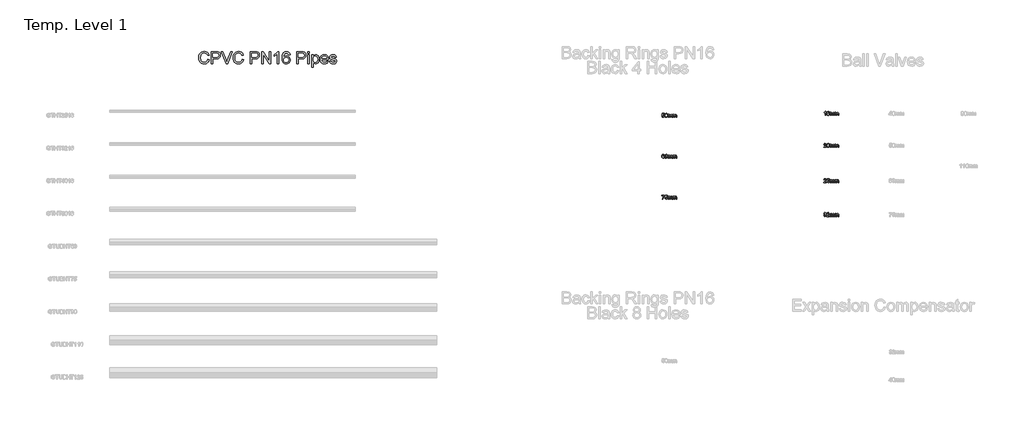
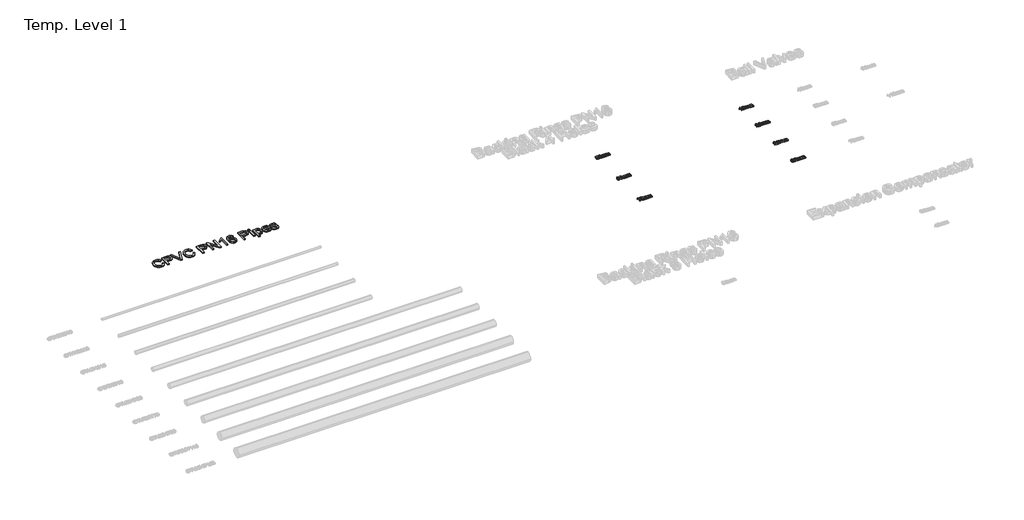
# One storey, part 54 of 62: 8 proxies.
"""IFC4 building model written with IfcOpenShell, lengths in millimetres."""

from ifc_helpers import new_model, si_unit, origin, origin_with_axes, place, context, project, spatial, polyline, outline, extrude, element, save

model = new_model("IFC4")

# Units and contexts
model_context = context("Model", 3, world=origin())
ifc_project = project(units=[si_unit("LENGTHUNIT", "METRE", prefix="MILLI")], contexts=[model_context])

# Site, building, storey
site = spatial("IfcSite", under=ifc_project)
building = spatial("IfcBuilding", under=site)
storey = spatial("IfcBuildingStorey", under=building, Name="Temp. Level 1", Elevation=0.0)

# Proxies
placement = place(None, origin())
element("IfcBuildingElementProxy", 1, Name="150mm Arial", ObjectType="150mm Arial", at=placement, inside=storey, context=model_context, shape_type="SweptSolid", body=[
    extrude(outline(polyline([(4161.5022519, 2011.5066411), (4179.9637904, 2006.7470257), (4171.4451606, 1985.234105), (4158.0767712, 1969.5174584), (4140.516675, 1959.9035762), (4119.422925, 1956.6989488), (4098.009163, 1959.1238286), (4081.0034538, 1966.398468), (4067.9685981, 1978.2704632), (4058.4673962, 1994.4874103), (4052.6666149, 2013.5529151), (4050.7330212, 2033.9705834), (4052.9190188, 2055.5060401), (4059.4770115, 2074.1027949), (4070.0644514, 2089.1704031), (4084.3387904, 2100.1184199), (4101.2678769, 2106.7845858), (4119.8195596, 2109.0066411), (4140.0614466, 2106.1310401), (4156.7967231, 2097.5042372), (4169.5025524, 2083.6580834), (4177.6560981, 2065.1244296), (4159.1945596, 2060.7253911), (4152.7943192, 2074.188432), (4144.0503288, 2083.4237084), (4132.8544154, 2088.7647541), (4119.0984058, 2090.5451026), (4103.2420356, 2088.570944), (4090.2161942, 2082.648468), (4080.3318793, 2073.3996699), (4073.9000885, 2061.4465449), (4069.1945596, 2034.0066411), (4074.7654731, 2002.2037565), (4081.8868673, 1990.3272541), (4092.1092231, 1981.8852469), (4104.3643313, 1976.8416771), (4117.5839827, 1975.1604872), (4132.9941389, 1977.4501507), (4145.8351846, 1984.3191411), (4155.5301966, 1995.695343), (4161.5022519, 2011.5066411)])), origin_with_axes(), (0.0, 0.0, 1.0), 15.0),
    extrude(outline(polyline([(4205.3484058, 1959.0066411), (4205.3484058, 2106.6989488), (4260.0839827, 2106.6989488), (4282.1512904, 2105.2926988), (4300.0899923, 2098.3876507), (4311.7185981, 2084.1088046), (4316.1176365, 2063.9705834), (4313.1473841, 2046.5637324), (4304.2366269, 2032.0595257), (4287.5734659, 2022.2698622), (4261.3460019, 2019.0066411), (4223.8099442, 2019.0066411), (4223.8099442, 1959.0066411), (4205.3484058, 1959.0066411)]), holes=[polyline([(4223.8099442, 2037.4681796), (4262.4277327, 2037.4681796), (4278.797925, 2039.1628911), (4289.6152327, 2044.2470257), (4295.6458817, 2052.4050786), (4297.6560981, 2063.3215449), (4292.9145115, 2078.6100065), (4280.4565788, 2086.9753911), (4261.9950404, 2088.2374103), (4223.8099442, 2088.2374103), (4223.8099442, 2037.4681796)])]), origin_with_axes(), (0.0, 0.0, 1.0), 15.0),
    extrude(outline(polyline([(4385.1320596, 1959.0066411), (4326.3580212, 2106.6989488), (4346.1176365, 2106.6989488), (4385.4565788, 2000.2926988), (4393.4253288, 1976.3143334), (4401.2859058, 2000.2926988), (4440.7330212, 2106.6989488), (4460.4926365, 2106.6989488), (4404.2065788, 1959.0066411), (4385.1320596, 1959.0066411)])), origin_with_axes(), (0.0, 0.0, 1.0), 15.0),
    extrude(outline(polyline([(4581.5022519, 2011.5066411), (4599.9637904, 2006.7470257), (4591.4451606, 1985.234105), (4578.0767712, 1969.5174584), (4560.516675, 1959.9035762), (4539.422925, 1956.6989488), (4518.009163, 1959.1238286), (4501.0034538, 1966.398468), (4487.9685981, 1978.2704632), (4478.4673962, 1994.4874103), (4472.6666149, 2013.5529151), (4470.7330212, 2033.9705834), (4472.9190188, 2055.5060401), (4479.4770115, 2074.1027949), (4490.0644514, 2089.1704031), (4504.3387904, 2100.1184199), (4521.2678769, 2106.7845858), (4539.8195596, 2109.0066411), (4560.0614466, 2106.1310401), (4576.7967231, 2097.5042372), (4589.5025524, 2083.6580834), (4597.6560981, 2065.1244296), (4579.1945596, 2060.7253911), (4572.7943192, 2074.188432), (4564.0503288, 2083.4237084), (4552.8544154, 2088.7647541), (4539.0984058, 2090.5451026), (4523.2420356, 2088.570944), (4510.2161942, 2082.648468), (4500.3318793, 2073.3996699), (4493.9000885, 2061.4465449), (4489.1945596, 2034.0066411), (4494.7654731, 2002.2037565), (4501.8868673, 1990.3272541), (4512.1092231, 1981.8852469), (4524.3643313, 1976.8416771), (4537.5839827, 1975.1604872), (4552.9941389, 1977.4501507), (4565.8351846, 1984.3191411), (4575.5301966, 1995.695343), (4581.5022519, 2011.5066411)])), origin_with_axes(), (0.0, 0.0, 1.0), 15.0),
    extrude(outline(polyline([(4683.0407135, 1959.0066411), (4683.0407135, 2106.6989488), (4737.7762904, 2106.6989488), (4759.8435981, 2105.2926988), (4777.7823, 2098.3876507), (4789.4109058, 2084.1088046), (4793.8099442, 2063.9705834), (4790.8396918, 2046.5637324), (4781.9289346, 2032.0595257), (4765.2657736, 2022.2698622), (4739.0383096, 2019.0066411), (4701.5022519, 2019.0066411), (4701.5022519, 1959.0066411), (4683.0407135, 1959.0066411)]), holes=[polyline([(4701.5022519, 2037.4681796), (4740.1200404, 2037.4681796), (4756.4902327, 2039.1628911), (4767.3075404, 2044.2470257), (4773.3381894, 2052.4050786), (4775.3484058, 2063.3215449), (4770.6068192, 2078.6100065), (4758.1488865, 2086.9753911), (4739.6873481, 2088.2374103), (4701.5022519, 2088.2374103), (4701.5022519, 2037.4681796)])]), origin_with_axes(), (0.0, 0.0, 1.0), 15.0),
    extrude(outline(polyline([(4819.1945596, 1959.0066411), (4819.1945596, 2106.6989488), (4838.954175, 2106.6989488), (4916.1176365, 1989.6917372), (4916.1176365, 2106.6989488), (4934.579175, 2106.6989488), (4934.579175, 1959.0066411), (4914.8195596, 1959.0066411), (4837.6560981, 2076.0499103), (4837.6560981, 1959.0066411), (4819.1945596, 1959.0066411)])), origin_with_axes(), (0.0, 0.0, 1.0), 15.0),
    extrude(outline(polyline([(5029.1945596, 1959.0066411), (5010.7330212, 1959.0066411), (5010.7330212, 2074.1027949), (4993.2450404, 2061.6448622), (4973.8099442, 2052.3239488), (4973.8099442, 2069.7758719), (5000.8712423, 2087.0475065), (5017.2955212, 2106.6989488), (5029.1945596, 2106.6989488), (5029.1945596, 1959.0066411)])), origin_with_axes(), (0.0, 0.0, 1.0), 15.0),
    extrude(outline(polyline([(5167.6560981, 2067.4681796), (5149.1945596, 2065.1604872), (5142.1993673, 2080.5571219), (5133.8249683, 2086.3173382), (5123.7017712, 2088.2374103), (5107.0431173, 2083.7662565), (5094.4409538, 2066.9814007), (5090.6143313, 2053.2298983), (5089.1945596, 2034.0787565), (5105.4746077, 2048.8083238), (5125.6488865, 2053.6220257), (5142.704175, 2050.3317613), (5157.0190788, 2040.460968), (5166.7276125, 2025.3798382), (5169.9637904, 2006.4585642), (5168.4403529, 1993.2389127), (5163.8700404, 1980.9838046), (5156.6314587, 1970.5901747), (5147.1032135, 1962.9549584), (5135.7179971, 1958.2629512), (5122.9085019, 1956.6989488), (5101.9634899, 1960.8455834), (5085.2823, 1973.2854872), (5074.3703409, 1995.2446219), (5070.7330212, 2027.9489488), (5074.7714827, 2064.7187805), (5086.8868673, 2089.8600065), (5103.4283337, 2102.4892132), (5124.8556173, 2106.6989488), (5141.0545356, 2104.0937805), (5154.0262904, 2096.2782757), (5163.1128288, 2083.8654151), (5167.6560981, 2067.4681796)]), holes=[polyline([(5089.1945596, 2006.7470257), (5093.4673962, 1990.7554392), (5104.8255692, 1979.1448622), (5121.4661942, 1975.1604872), (5133.649187, 1977.2247901), (5143.2270115, 1983.4176988), (5149.4334418, 1993.1532757), (5151.5022519, 2005.8455834), (5149.4604851, 2018.0285762), (5143.3351846, 2027.3179392), (5133.5951005, 2033.1998502), (5120.7089827, 2035.1604872), (5108.5440188, 2033.1998502), (5098.3712423, 2027.3179392), (5091.4887303, 2018.2539368), (5089.1945596, 2006.7470257)])]), origin_with_axes(), (0.0, 0.0, 1.0), 15.0),
    extrude(outline(polyline([(5250.7330212, 1959.0066411), (5250.7330212, 2106.6989488), (5305.4685981, 2106.6989488), (5327.5359058, 2105.2926988), (5345.4746077, 2098.3876507), (5357.1032135, 2084.1088046), (5361.5022519, 2063.9705834), (5358.5319995, 2046.5637324), (5349.6212423, 2032.0595257), (5332.9580813, 2022.2698622), (5306.7306173, 2019.0066411), (5269.1945596, 2019.0066411), (5269.1945596, 1959.0066411), (5250.7330212, 1959.0066411)]), holes=[polyline([(5269.1945596, 2037.4681796), (5307.8123481, 2037.4681796), (5324.1825404, 2039.1628911), (5334.9998481, 2044.2470257), (5341.0304971, 2052.4050786), (5343.0407135, 2063.3215449), (5338.2991269, 2078.6100065), (5325.8411942, 2086.9753911), (5307.3796558, 2088.2374103), (5269.1945596, 2088.2374103), (5269.1945596, 2037.4681796)])]), origin_with_axes(), (0.0, 0.0, 1.0), 15.0),
    extrude(outline(polyline([(5384.579175, 1959.0066411), (5384.579175, 2067.4681796), (5403.0407135, 2067.4681796), (5403.0407135, 1959.0066411), (5384.579175, 1959.0066411)])), origin_with_axes(), (0.0, 0.0, 1.0), 15.0),
    extrude(outline(polyline([(5384.579175, 2088.2374103), (5384.579175, 2106.6989488), (5403.0407135, 2106.6989488), (5403.0407135, 2088.2374103), (5384.579175, 2088.2374103)])), origin_with_axes(), (0.0, 0.0, 1.0), 15.0),
    extrude(outline(polyline([(5430.7330212, 1917.4681796), (5430.7330212, 2067.4681796), (5449.1945596, 2067.4681796), (5449.1945596, 2049.367218), (5461.9589827, 2064.6737084), (5479.1945596, 2069.7758719), (5491.6795356, 2067.9910161), (5502.5960019, 2062.6364488), (5511.4842231, 2054.0366892), (5517.8844635, 2042.5162565), (5523.0407135, 2014.0667372), (5521.5848841, 1998.2779752), (5517.2173962, 1984.1568815), (5510.0779731, 1972.4201026), (5500.3063385, 1963.7842853), (5488.9256293, 1958.4702829), (5476.9589827, 1956.6989488), (5460.8952808, 1961.4405353), (5449.1945596, 1973.429718), (5449.1945596, 1917.4681796), (5430.7330212, 1917.4681796)]), holes=[polyline([(5449.1945596, 2012.3720257), (5451.1912543, 1995.8215449), (5457.1813385, 1984.2470257), (5466.0199803, 1977.4321219), (5476.5623481, 1975.1604872), (5487.2759899, 1977.5132517), (5496.3399923, 1984.5715449), (5502.5193793, 1996.5697421), (5504.579175, 2013.742218), (5502.5689587, 2030.2025546), (5496.5383096, 2041.9393334), (5487.7131894, 2048.9705834), (5477.3195596, 2051.3143334), (5466.8853649, 2048.8218454), (5457.7222038, 2041.3443815), (5451.3264707, 2029.1163166), (5449.1945596, 2012.3720257)])]), origin_with_axes(), (0.0, 0.0, 1.0), 15.0),
    extrude(outline(polyline([(5619.7474442, 1991.3143334), (5637.8484058, 1989.0066411), (5631.3264707, 1975.367819), (5620.9193192, 1965.1725065), (5606.8613264, 1958.8173382), (5589.3868673, 1956.6989488), (5567.7252087, 1960.3542973), (5551.0575404, 1971.320343), (5540.4295356, 1988.8849464), (5536.8868673, 2012.335968), (5540.4655933, 2036.5757517), (5551.2017712, 2054.7037565), (5567.6440788, 2066.007843), (5588.3411942, 2069.7758719), (5608.3937784, 2066.0168574), (5624.4169154, 2054.7398142), (5634.9232255, 2036.6478671), (5638.4253288, 2012.4441411), (5638.3171558, 2007.4681796), (5555.3484058, 2007.4681796), (5558.5440188, 1993.649069), (5565.9673962, 1983.4898142), (5576.681038, 1977.242819), (5589.7474442, 1975.1604872), (5607.8484058, 1979.0186603), (5619.7474442, 1991.3143334)]), holes=[polyline([(5555.3484058, 2025.929718), (5619.9637904, 2025.929718), (5617.4667952, 2035.6833238), (5612.5719635, 2042.6604872), (5601.8087423, 2049.1508719), (5588.2690788, 2051.3143334), (5575.8246678, 2049.5880714), (5565.5347038, 2044.4092853), (5558.3817591, 2036.3368695), (5555.3484058, 2025.929718)])]), origin_with_axes(), (0.0, 0.0, 1.0), 15.0),
    extrude(outline(polyline([(5649.9637904, 1991.3143334), (5668.4253288, 1993.6220257), (5671.3369875, 1985.7253911), (5676.9710019, 1979.9201026), (5696.5503288, 1975.1604872), (5715.3724442, 1979.523468), (5721.5022519, 1989.7638526), (5715.3363865, 1998.0571219), (5696.3339827, 2003.3215449), (5668.5335019, 2012.3539969), (5656.4000885, 2022.9008719), (5652.2714827, 2037.7926988), (5655.5887904, 2051.5487084), (5664.6392712, 2062.0595257), (5676.37605, 2067.5222661), (5692.2594635, 2069.7758719), (5714.7234058, 2066.1520738), (5729.0022519, 2056.3443815), (5735.3484058, 2039.7758719), (5716.8868673, 2037.4681796), (5709.9457615, 2047.6544776), (5693.7017712, 2051.3143334), (5676.0335019, 2047.8167372), (5670.7330212, 2039.6676988), (5672.9325404, 2034.2951026), (5679.8195596, 2030.2205834), (5695.7210019, 2026.2902949), (5722.8183577, 2017.6003911), (5735.4024923, 2007.7566411), (5739.9637904, 1991.710968), (5734.6092231, 1974.0426988), (5719.1585019, 1961.2241892), (5696.297925, 1956.6989488), (5677.6831413, 1958.8804392), (5664.0984058, 1965.4249103), (5655.0298962, 1976.2602469), (5649.9637904, 1991.3143334)])), origin_with_axes(), (0.0, 0.0, 1.0), 15.0),
])
element("IfcBuildingElementProxy", 2, Name="50mm Arial", ObjectType="50mm Arial", at=placement, inside=storey, context=model_context, shape_type="SweptSolid", body=[
    extrude(outline(polyline([(9715.3245939, 1315.3476651), (9721.4784401, 1316.1168958), (9724.5794016, 1309.7767516), (9731.0096901, 1307.6553574), (9738.7260362, 1310.6060785), (9741.4784401, 1318.4366074), (9738.9003151, 1325.7442997), (9731.1058439, 1328.4245882), (9725.7031997, 1327.3548766), (9722.2476708, 1324.5784343), (9716.0938247, 1325.3476651), (9721.4784401, 1350.7322805), (9745.3245939, 1350.7322805), (9745.3245939, 1344.5784343), (9726.4544016, 1344.5784343), (9723.8221901, 1331.020742), (9732.8245939, 1334.5784343), (9743.3474304, 1330.1673766), (9747.6322862, 1318.8212228), (9743.7741131, 1307.4029535), (9738.2332477, 1302.9768718), (9730.9856516, 1301.5015112), (9720.1262766, 1305.2935785), (9715.3245939, 1315.3476651)])), origin_with_axes(), (0.0, 0.0, 1.0), 15.0),
    extrude(outline(polyline([(9753.0169016, 1326.489492), (9754.8257958, 1340.6541555), (9760.198392, 1348.8212228), (9769.1707477, 1351.5015112), (9776.3582477, 1349.9149728), (9781.3221901, 1345.3416555), (9784.2068054, 1338.0580016), (9785.3245939, 1326.489492), (9783.5337285, 1312.3849247), (9778.1791612, 1304.1998285), (9769.1707477, 1301.5015112), (9757.9207477, 1306.1890112), (9754.2428631, 1314.5153333), (9753.0169016, 1326.489492)]), holes=[polyline([(9759.1707477, 1326.5015112), (9762.0553631, 1311.2190593), (9769.1707477, 1307.6553574), (9776.2861324, 1311.2310785), (9779.1707477, 1326.5015112), (9776.3822862, 1341.6096843), (9769.0986324, 1345.3476651), (9762.151517, 1342.0543958), (9759.1707477, 1326.5015112)])]), origin_with_axes(), (0.0, 0.0, 1.0), 15.0),
    extrude(outline(polyline([(9792.2476708, 1302.270742), (9792.2476708, 1338.4245882), (9798.401517, 1338.4245882), (9798.401517, 1332.4750689), (9802.6322862, 1337.348867), (9808.6539208, 1339.1938189), (9814.8197862, 1337.3128093), (9818.2092093, 1332.0423766), (9823.010892, 1337.4059583), (9829.0745939, 1339.1938189), (9837.1214689, 1336.2190593), (9839.9399785, 1327.0543958), (9839.9399785, 1302.270742), (9833.7861324, 1302.270742), (9833.7861324, 1324.4101651), (9833.2152189, 1329.5483862), (9831.1479112, 1332.0784343), (9827.6322862, 1333.0399728), (9821.5806035, 1330.5760305), (9819.1707477, 1322.6793958), (9819.1707477, 1302.270742), (9813.0169016, 1302.270742), (9813.0169016, 1325.0952612), (9811.5926227, 1331.0567997), (9806.9231516, 1333.0399728), (9802.3678631, 1331.7178574), (9799.339017, 1327.8476651), (9798.401517, 1320.5039151), (9798.401517, 1302.270742), (9792.2476708, 1302.270742)])), origin_with_axes(), (0.0, 0.0, 1.0), 15.0),
    extrude(outline(polyline([(9849.1707477, 1302.270742), (9849.1707477, 1338.4245882), (9855.3245939, 1338.4245882), (9855.3245939, 1332.4750689), (9859.5553631, 1337.348867), (9865.5769977, 1339.1938189), (9871.7428631, 1337.3128093), (9875.1322862, 1332.0423766), (9879.9339689, 1337.4059583), (9885.9976708, 1339.1938189), (9894.0445458, 1336.2190593), (9896.8630554, 1327.0543958), (9896.8630554, 1302.270742), (9890.7092093, 1302.270742), (9890.7092093, 1324.4101651), (9890.1382958, 1329.5483862), (9888.0709881, 1332.0784343), (9884.5553631, 1333.0399728), (9878.5036804, 1330.5760305), (9876.0938247, 1322.6793958), (9876.0938247, 1302.270742), (9869.9399785, 1302.270742), (9869.9399785, 1325.0952612), (9868.5156997, 1331.0567997), (9863.8462285, 1333.0399728), (9859.2909401, 1331.7178574), (9856.2620939, 1327.8476651), (9855.3245939, 1320.5039151), (9855.3245939, 1302.270742), (9849.1707477, 1302.270742)])), origin_with_axes(), (0.0, 0.0, 1.0), 15.0),
])
element("IfcBuildingElementProxy", 3, Name="50mm Arial", ObjectType="50mm Arial", at=placement, inside=storey, context=model_context, shape_type="SweptSolid", body=[
    extrude(outline(polyline([(9746.8630554, 838.4245882), (9740.7092093, 837.6553574), (9738.3774785, 842.7875689), (9732.2116131, 845.3476651), (9726.6587285, 843.8572805), (9722.4580074, 838.2623285), (9720.7092093, 827.2947805), (9726.135892, 832.2046362), (9732.8606516, 833.8092035), (9743.3173824, 829.4221843), (9747.6322862, 818.0880497), (9745.6010362, 809.5964632), (9740.0120939, 803.5868478), (9731.9471901, 801.5015112), (9719.4051227, 807.0303574), (9715.767803, 814.3500689), (9714.5553631, 825.2515112), (9715.901517, 837.5081218), (9719.9399785, 845.8885305), (9725.4538006, 850.098266), (9732.5962285, 851.5015112), (9742.3197862, 848.0279535), (9746.8630554, 838.4245882)]), holes=[polyline([(9720.7092093, 818.1842035), (9722.1334881, 812.8536747), (9725.9195458, 808.9834824), (9731.4664208, 807.6553574), (9738.7200266, 810.4077612), (9741.4784401, 817.8837228), (9738.7560843, 825.0411747), (9731.214017, 827.6553574), (9723.7681035, 825.0411747), (9720.7092093, 818.1842035)])]), origin_with_axes(), (0.0, 0.0, 1.0), 15.0),
    extrude(outline(polyline([(9753.0169016, 815.3476651), (9759.1707477, 816.1168958), (9762.5661804, 809.6385305), (9768.9183439, 807.6553574), (9776.3943054, 810.3837228), (9779.1707477, 817.1385305), (9776.4183439, 823.5027132), (9769.4231516, 826.020742), (9765.1082477, 825.3476651), (9765.7933439, 831.5015112), (9773.7620939, 833.1962228), (9776.8630554, 838.6289151), (9774.6154593, 843.442617), (9768.8221901, 845.3476651), (9762.9568054, 843.4245882), (9759.9399785, 837.6553574), (9753.7861324, 838.4245882), (9758.8221901, 848.0760305), (9768.6058439, 851.5015112), (9776.0277189, 849.8128093), (9781.2200266, 845.1974247), (9783.0169016, 838.989492), (9781.3101708, 833.3164151), (9776.2620939, 829.2418958), (9782.9688247, 825.0351651), (9785.3245939, 817.0303574), (9780.6130554, 806.020742), (9768.7019977, 801.5015112), (9757.9087285, 805.3596843), (9753.0169016, 815.3476651)])), origin_with_axes(), (0.0, 0.0, 1.0), 15.0),
    extrude(outline(polyline([(9792.2476708, 802.270742), (9792.2476708, 838.4245882), (9798.401517, 838.4245882), (9798.401517, 832.4750689), (9802.6322862, 837.348867), (9808.6539208, 839.1938189), (9814.8197862, 837.3128093), (9818.2092093, 832.0423766), (9823.010892, 837.4059583), (9829.0745939, 839.1938189), (9837.1214689, 836.2190593), (9839.9399785, 827.0543958), (9839.9399785, 802.270742), (9833.7861324, 802.270742), (9833.7861324, 824.4101651), (9833.2152189, 829.5483862), (9831.1479112, 832.0784343), (9827.6322862, 833.0399728), (9821.5806035, 830.5760305), (9819.1707477, 822.6793958), (9819.1707477, 802.270742), (9813.0169016, 802.270742), (9813.0169016, 825.0952612), (9811.5926227, 831.0567997), (9806.9231516, 833.0399728), (9802.3678631, 831.7178574), (9799.339017, 827.8476651), (9798.401517, 820.5039151), (9798.401517, 802.270742), (9792.2476708, 802.270742)])), origin_with_axes(), (0.0, 0.0, 1.0), 15.0),
    extrude(outline(polyline([(9849.1707477, 802.270742), (9849.1707477, 838.4245882), (9855.3245939, 838.4245882), (9855.3245939, 832.4750689), (9859.5553631, 837.348867), (9865.5769977, 839.1938189), (9871.7428631, 837.3128093), (9875.1322862, 832.0423766), (9879.9339689, 837.4059583), (9885.9976708, 839.1938189), (9894.0445458, 836.2190593), (9896.8630554, 827.0543958), (9896.8630554, 802.270742), (9890.7092093, 802.270742), (9890.7092093, 824.4101651), (9890.1382958, 829.5483862), (9888.0709881, 832.0784343), (9884.5553631, 833.0399728), (9878.5036804, 830.5760305), (9876.0938247, 822.6793958), (9876.0938247, 802.270742), (9869.9399785, 802.270742), (9869.9399785, 825.0952612), (9868.5156997, 831.0567997), (9863.8462285, 833.0399728), (9859.2909401, 831.7178574), (9856.2620939, 827.8476651), (9855.3245939, 820.5039151), (9855.3245939, 802.270742), (9849.1707477, 802.270742)])), origin_with_axes(), (0.0, 0.0, 1.0), 15.0),
])
element("IfcBuildingElementProxy", 4, Name="50mm Arial", ObjectType="50mm Arial", at=placement, inside=storey, context=model_context, shape_type="SweptSolid", body=[
    extrude(outline(polyline([(9715.3245939, 344.5784343), (9715.3245939, 350.7322805), (9747.6322862, 350.7322805), (9747.6322862, 345.7563189), (9738.4676227, 332.5171362), (9731.4544016, 315.6481458), (9729.1707477, 302.270742), (9723.0169016, 302.270742), (9725.4628151, 316.1529535), (9732.1755554, 331.8440593), (9741.4784401, 344.5784343), (9715.3245939, 344.5784343)])), origin_with_axes(), (0.0, 0.0, 1.0), 15.0),
    extrude(outline(polyline([(9753.0169016, 315.3476651), (9759.1707477, 316.1168958), (9762.2717093, 309.7767516), (9768.7019977, 307.6553574), (9776.4183439, 310.6060785), (9779.1707477, 318.4366074), (9776.5926227, 325.7442997), (9768.7981516, 328.4245882), (9763.3955074, 327.3548766), (9759.9399785, 324.5784343), (9753.7861324, 325.3476651), (9759.1707477, 350.7322805), (9783.0169016, 350.7322805), (9783.0169016, 344.5784343), (9764.1467093, 344.5784343), (9761.5144977, 331.020742), (9770.5169016, 334.5784343), (9781.0397381, 330.1673766), (9785.3245939, 318.8212228), (9781.4664208, 307.4029535), (9775.9255554, 302.9768718), (9768.6779593, 301.5015112), (9757.8185843, 305.2935785), (9753.0169016, 315.3476651)])), origin_with_axes(), (0.0, 0.0, 1.0), 15.0),
    extrude(outline(polyline([(9792.2476708, 302.270742), (9792.2476708, 338.4245882), (9798.401517, 338.4245882), (9798.401517, 332.4750689), (9802.6322862, 337.348867), (9808.6539208, 339.1938189), (9814.8197862, 337.3128093), (9818.2092093, 332.0423766), (9823.010892, 337.4059583), (9829.0745939, 339.1938189), (9837.1214689, 336.2190593), (9839.9399785, 327.0543958), (9839.9399785, 302.270742), (9833.7861324, 302.270742), (9833.7861324, 324.4101651), (9833.2152189, 329.5483862), (9831.1479112, 332.0784343), (9827.6322862, 333.0399728), (9821.5806035, 330.5760305), (9819.1707477, 322.6793958), (9819.1707477, 302.270742), (9813.0169016, 302.270742), (9813.0169016, 325.0952612), (9811.5926227, 331.0567997), (9806.9231516, 333.0399728), (9802.3678631, 331.7178574), (9799.339017, 327.8476651), (9798.401517, 320.5039151), (9798.401517, 302.270742), (9792.2476708, 302.270742)])), origin_with_axes(), (0.0, 0.0, 1.0), 15.0),
    extrude(outline(polyline([(9849.1707477, 302.270742), (9849.1707477, 338.4245882), (9855.3245939, 338.4245882), (9855.3245939, 332.4750689), (9859.5553631, 337.348867), (9865.5769977, 339.1938189), (9871.7428631, 337.3128093), (9875.1322862, 332.0423766), (9879.9339689, 337.4059583), (9885.9976708, 339.1938189), (9894.0445458, 336.2190593), (9896.8630554, 327.0543958), (9896.8630554, 302.270742), (9890.7092093, 302.270742), (9890.7092093, 324.4101651), (9890.1382958, 329.5483862), (9888.0709881, 332.0784343), (9884.5553631, 333.0399728), (9878.5036804, 330.5760305), (9876.0938247, 322.6793958), (9876.0938247, 302.270742), (9869.9399785, 302.270742), (9869.9399785, 325.0952612), (9868.5156997, 331.0567997), (9863.8462285, 333.0399728), (9859.2909401, 331.7178574), (9856.2620939, 327.8476651), (9855.3245939, 320.5039151), (9855.3245939, 302.270742), (9849.1707477, 302.270742)])), origin_with_axes(), (0.0, 0.0, 1.0), 15.0),
])
element("IfcBuildingElementProxy", 5, Name="50mm Arial", ObjectType="50mm Arial", at=placement, inside=storey, context=model_context, shape_type="SweptSolid", body=[
    extrude(outline(polyline([(11718.401517, 1325.9372281), (11712.2476708, 1325.9372281), (11712.2476708, 1364.3026127), (11706.4183439, 1360.1499685), (11699.9399785, 1357.0429973), (11699.9399785, 1362.860305), (11708.9604112, 1368.6175165), (11714.4351708, 1375.1679973), (11718.401517, 1375.1679973), (11718.401517, 1325.9372281)])), origin_with_axes(), (0.0, 0.0, 1.0), 15.0),
    extrude(outline(polyline([(11764.5553631, 1362.0910742), (11758.401517, 1361.3218435), (11756.0697862, 1366.454055), (11749.9039208, 1369.0141512), (11744.3510362, 1367.5237665), (11740.1503151, 1361.9288146), (11738.401517, 1350.9612665), (11743.8281997, 1355.8711223), (11750.5529593, 1357.4756896), (11761.0096901, 1353.0886704), (11765.3245939, 1341.7545358), (11763.2933439, 1333.2629492), (11757.7044016, 1327.2533339), (11749.6394977, 1325.1679973), (11737.0974304, 1330.6968435), (11733.4601107, 1338.016555), (11732.2476708, 1348.9179973), (11733.5938247, 1361.1746079), (11737.6322862, 1369.5550165), (11743.1461083, 1373.7647521), (11750.2885362, 1375.1679973), (11760.0120939, 1371.6944396), (11764.5553631, 1362.0910742)]), holes=[polyline([(11738.401517, 1341.8506896), (11739.8257958, 1336.5201608), (11743.6118535, 1332.6499685), (11749.1587285, 1331.3218435), (11756.4123343, 1334.0742473), (11759.1707477, 1341.5502089), (11756.448392, 1348.7076608), (11748.9063247, 1351.3218435), (11741.4604112, 1348.7076608), (11738.401517, 1341.8506896)])]), origin_with_axes(), (0.0, 0.0, 1.0), 15.0),
    extrude(outline(polyline([(11772.2476708, 1325.9372281), (11772.2476708, 1362.0910742), (11778.401517, 1362.0910742), (11778.401517, 1356.141555), (11782.6322862, 1361.0153531), (11788.6539208, 1362.860305), (11794.8197862, 1360.9792954), (11798.2092093, 1355.7088627), (11803.010892, 1361.0724444), (11809.0745939, 1362.860305), (11817.1214689, 1359.8855454), (11819.9399785, 1350.7208819), (11819.9399785, 1325.9372281), (11813.7861324, 1325.9372281), (11813.7861324, 1348.0766512), (11813.2152189, 1353.2148723), (11811.1479112, 1355.7449204), (11807.6322862, 1356.7064589), (11801.5806035, 1354.2425165), (11799.1707477, 1346.3458819), (11799.1707477, 1325.9372281), (11793.0169016, 1325.9372281), (11793.0169016, 1348.7617473), (11791.5926227, 1354.7232858), (11786.9231516, 1356.7064589), (11782.3678631, 1355.3843435), (11779.339017, 1351.5141512), (11778.401517, 1344.1704012), (11778.401517, 1325.9372281), (11772.2476708, 1325.9372281)])), origin_with_axes(), (0.0, 0.0, 1.0), 15.0),
    extrude(outline(polyline([(11829.1707477, 1325.9372281), (11829.1707477, 1362.0910742), (11835.3245939, 1362.0910742), (11835.3245939, 1356.141555), (11839.5553631, 1361.0153531), (11845.5769977, 1362.860305), (11851.7428631, 1360.9792954), (11855.1322862, 1355.7088627), (11859.9339689, 1361.0724444), (11865.9976708, 1362.860305), (11874.0445458, 1359.8855454), (11876.8630554, 1350.7208819), (11876.8630554, 1325.9372281), (11870.7092093, 1325.9372281), (11870.7092093, 1348.0766512), (11870.1382958, 1353.2148723), (11868.0709881, 1355.7449204), (11864.5553631, 1356.7064589), (11858.5036804, 1354.2425165), (11856.0938247, 1346.3458819), (11856.0938247, 1325.9372281), (11849.9399785, 1325.9372281), (11849.9399785, 1348.7617473), (11848.5156997, 1354.7232858), (11843.8462285, 1356.7064589), (11839.2909401, 1355.3843435), (11836.2620939, 1351.5141512), (11835.3245939, 1344.1704012), (11835.3245939, 1325.9372281), (11829.1707477, 1325.9372281)])), origin_with_axes(), (0.0, 0.0, 1.0), 15.0),
])
element("IfcBuildingElementProxy", 6, Name="50mm Arial", ObjectType="50mm Arial", at=placement, inside=storey, context=model_context, shape_type="SweptSolid", body=[
    extrude(outline(polyline([(11726.8630554, 940.9553291), (11726.8630554, 934.801483), (11694.5553631, 934.801483), (11695.2164208, 939.0442714), (11698.9544016, 945.5767234), (11706.6587285, 952.7101368), (11717.2837285, 962.9625407), (11719.9399785, 969.9336945), (11717.4339689, 975.5767234), (11710.8894977, 977.8784061), (11704.0685843, 975.6308099), (11701.4784401, 969.4168676), (11695.3245939, 970.1860984), (11700.042142, 980.4865791), (11711.0217093, 984.0322522), (11722.0373343, 980.0899445), (11726.0938247, 970.3062907), (11725.0000747, 964.4709541), (11721.3642574, 958.4373003), (11712.5481516, 950.0058099), (11705.4688247, 944.0863388), (11702.6923824, 940.9553291), (11726.8630554, 940.9553291)])), origin_with_axes(), (0.0, 0.0, 1.0), 15.0),
    extrude(outline(polyline([(11733.0169016, 959.020233), (11734.8257958, 973.1848964), (11740.198392, 981.3519638), (11749.1707477, 984.0322522), (11756.3582477, 982.4457138), (11761.3221901, 977.8723964), (11764.2068054, 970.5887426), (11765.3245939, 959.020233), (11763.5337285, 944.9156657), (11758.1791612, 936.7305695), (11749.1707477, 934.0322522), (11737.9207477, 938.7197522), (11734.2428631, 947.0460743), (11733.0169016, 959.020233)]), holes=[polyline([(11739.1707477, 959.0322522), (11742.0553631, 943.7498003), (11749.1707477, 940.1860984), (11756.2861324, 943.7618195), (11759.1707477, 959.0322522), (11756.3822862, 974.1404253), (11749.0986324, 977.8784061), (11742.151517, 974.5851368), (11739.1707477, 959.0322522)])]), origin_with_axes(), (0.0, 0.0, 1.0), 15.0),
    extrude(outline(polyline([(11772.2476708, 934.801483), (11772.2476708, 970.9553291), (11778.401517, 970.9553291), (11778.401517, 965.0058099), (11782.6322862, 969.879608), (11788.6539208, 971.7245599), (11794.8197862, 969.8435503), (11798.2092093, 964.5731176), (11803.010892, 969.9366993), (11809.0745939, 971.7245599), (11817.1214689, 968.7498003), (11819.9399785, 959.5851368), (11819.9399785, 934.801483), (11813.7861324, 934.801483), (11813.7861324, 956.9409061), (11813.2152189, 962.0791272), (11811.1479112, 964.6091753), (11807.6322862, 965.5707138), (11801.5806035, 963.1067714), (11799.1707477, 955.2101368), (11799.1707477, 934.801483), (11793.0169016, 934.801483), (11793.0169016, 957.6260022), (11791.5926227, 963.5875407), (11786.9231516, 965.5707138), (11782.3678631, 964.2485984), (11779.339017, 960.3784061), (11778.401517, 953.0346561), (11778.401517, 934.801483), (11772.2476708, 934.801483)])), origin_with_axes(), (0.0, 0.0, 1.0), 15.0),
    extrude(outline(polyline([(11829.1707477, 934.801483), (11829.1707477, 970.9553291), (11835.3245939, 970.9553291), (11835.3245939, 965.0058099), (11839.5553631, 969.879608), (11845.5769977, 971.7245599), (11851.7428631, 969.8435503), (11855.1322862, 964.5731176), (11859.9339689, 969.9366993), (11865.9976708, 971.7245599), (11874.0445458, 968.7498003), (11876.8630554, 959.5851368), (11876.8630554, 934.801483), (11870.7092093, 934.801483), (11870.7092093, 956.9409061), (11870.1382958, 962.0791272), (11868.0709881, 964.6091753), (11864.5553631, 965.5707138), (11858.5036804, 963.1067714), (11856.0938247, 955.2101368), (11856.0938247, 934.801483), (11849.9399785, 934.801483), (11849.9399785, 957.6260022), (11848.5156997, 963.5875407), (11843.8462285, 965.5707138), (11839.2909401, 964.2485984), (11836.2620939, 960.3784061), (11835.3245939, 953.0346561), (11835.3245939, 934.801483), (11829.1707477, 934.801483)])), origin_with_axes(), (0.0, 0.0, 1.0), 15.0),
])
element("IfcBuildingElementProxy", 7, Name="50mm Arial", ObjectType="50mm Arial", at=placement, inside=storey, context=model_context, shape_type="SweptSolid", body=[
    extrude(outline(polyline([(11726.8630554, 510.9553291), (11726.8630554, 504.801483), (11694.5553631, 504.801483), (11695.2164208, 509.0442714), (11698.9544016, 515.5767234), (11706.6587285, 522.7101368), (11717.2837285, 532.9625407), (11719.9399785, 539.9336945), (11717.4339689, 545.5767234), (11710.8894977, 547.8784061), (11704.0685843, 545.6308099), (11701.4784401, 539.4168676), (11695.3245939, 540.1860984), (11700.042142, 550.4865791), (11711.0217093, 554.0322522), (11722.0373343, 550.0899445), (11726.0938247, 540.3062907), (11725.0000747, 534.4709541), (11721.3642574, 528.4373003), (11712.5481516, 520.0058099), (11705.4688247, 514.0863388), (11702.6923824, 510.9553291), (11726.8630554, 510.9553291)])), origin_with_axes(), (0.0, 0.0, 1.0), 15.0),
    extrude(outline(polyline([(11733.0169016, 517.8784061), (11739.1707477, 518.6476368), (11742.2717093, 512.3074926), (11748.7019977, 510.1860984), (11756.4183439, 513.1368195), (11759.1707477, 520.9673484), (11756.5926227, 528.2750407), (11748.7981516, 530.9553291), (11743.3955074, 529.8856176), (11739.9399785, 527.1091753), (11733.7861324, 527.8784061), (11739.1707477, 553.2630214), (11763.0169016, 553.2630214), (11763.0169016, 547.1091753), (11744.1467093, 547.1091753), (11741.5144977, 533.551483), (11750.5169016, 537.1091753), (11761.0397381, 532.6981176), (11765.3245939, 521.3519638), (11761.4664208, 509.9336945), (11755.9255554, 505.5076128), (11748.6779593, 504.0322522), (11737.8185843, 507.8243195), (11733.0169016, 517.8784061)])), origin_with_axes(), (0.0, 0.0, 1.0), 15.0),
    extrude(outline(polyline([(11772.2476708, 504.801483), (11772.2476708, 540.9553291), (11778.401517, 540.9553291), (11778.401517, 535.0058099), (11782.6322862, 539.879608), (11788.6539208, 541.7245599), (11794.8197862, 539.8435503), (11798.2092093, 534.5731176), (11803.010892, 539.9366993), (11809.0745939, 541.7245599), (11817.1214689, 538.7498003), (11819.9399785, 529.5851368), (11819.9399785, 504.801483), (11813.7861324, 504.801483), (11813.7861324, 526.9409061), (11813.2152189, 532.0791272), (11811.1479112, 534.6091753), (11807.6322862, 535.5707138), (11801.5806035, 533.1067714), (11799.1707477, 525.2101368), (11799.1707477, 504.801483), (11793.0169016, 504.801483), (11793.0169016, 527.6260022), (11791.5926227, 533.5875407), (11786.9231516, 535.5707138), (11782.3678631, 534.2485984), (11779.339017, 530.3784061), (11778.401517, 523.0346561), (11778.401517, 504.801483), (11772.2476708, 504.801483)])), origin_with_axes(), (0.0, 0.0, 1.0), 15.0),
    extrude(outline(polyline([(11829.1707477, 504.801483), (11829.1707477, 540.9553291), (11835.3245939, 540.9553291), (11835.3245939, 535.0058099), (11839.5553631, 539.879608), (11845.5769977, 541.7245599), (11851.7428631, 539.8435503), (11855.1322862, 534.5731176), (11859.9339689, 539.9366993), (11865.9976708, 541.7245599), (11874.0445458, 538.7498003), (11876.8630554, 529.5851368), (11876.8630554, 504.801483), (11870.7092093, 504.801483), (11870.7092093, 526.9409061), (11870.1382958, 532.0791272), (11868.0709881, 534.6091753), (11864.5553631, 535.5707138), (11858.5036804, 533.1067714), (11856.0938247, 525.2101368), (11856.0938247, 504.801483), (11849.9399785, 504.801483), (11849.9399785, 527.6260022), (11848.5156997, 533.5875407), (11843.8462285, 535.5707138), (11839.2909401, 534.2485984), (11836.2620939, 530.3784061), (11835.3245939, 523.0346561), (11835.3245939, 504.801483), (11829.1707477, 504.801483)])), origin_with_axes(), (0.0, 0.0, 1.0), 15.0),
])
element("IfcBuildingElementProxy", 8, Name="50mm Arial", ObjectType="50mm Arial", at=placement, inside=storey, context=model_context, shape_type="SweptSolid", body=[
    extrude(outline(polyline([(11695.3245939, 102.8784061), (11701.4784401, 103.6476368), (11704.8738727, 97.1692714), (11711.2260362, 95.1860984), (11718.7019977, 97.9144638), (11721.4784401, 104.6692714), (11718.7260362, 111.0334541), (11711.7308439, 113.551483), (11707.4159401, 112.8784061), (11708.1010362, 119.0322522), (11716.0697862, 120.7269638), (11719.1707477, 126.1596561), (11716.9231516, 130.973358), (11711.1298824, 132.8784061), (11705.2644977, 130.9553291), (11702.2476708, 125.1860984), (11696.0938247, 125.9553291), (11701.1298824, 135.6067714), (11710.9135362, 139.0322522), (11718.3354112, 137.3435503), (11723.5277189, 132.7281657), (11725.3245939, 126.520233), (11723.6178631, 120.8471561), (11718.5697862, 116.7726368), (11725.276517, 112.5659061), (11727.6322862, 104.5610984), (11722.9207477, 93.551483), (11711.0096901, 89.0322522), (11700.2164208, 92.8904253), (11695.3245939, 102.8784061)])), origin_with_axes(), (0.0, 0.0, 1.0), 15.0),
    extrude(outline(polyline([(11764.5553631, 95.9553291), (11764.5553631, 89.801483), (11732.2476708, 89.801483), (11732.9087285, 94.0442714), (11736.6467093, 100.5767234), (11744.3510362, 107.7101368), (11754.9760362, 117.9625407), (11757.6322862, 124.9336945), (11755.1262766, 130.5767234), (11748.5818054, 132.8784061), (11741.760892, 130.6308099), (11739.1707477, 124.4168676), (11733.0169016, 125.1860984), (11737.7344497, 135.4865791), (11748.714017, 139.0322522), (11759.729642, 135.0899445), (11763.7861324, 125.3062907), (11762.6923824, 119.4709541), (11759.0565651, 113.4373003), (11750.2404593, 105.0058099), (11743.1611324, 99.0863388), (11740.3846901, 95.9553291), (11764.5553631, 95.9553291)])), origin_with_axes(), (0.0, 0.0, 1.0), 15.0),
    extrude(outline(polyline([(11772.2476708, 89.801483), (11772.2476708, 125.9553291), (11778.401517, 125.9553291), (11778.401517, 120.0058099), (11782.6322862, 124.879608), (11788.6539208, 126.7245599), (11794.8197862, 124.8435503), (11798.2092093, 119.5731176), (11803.010892, 124.9366993), (11809.0745939, 126.7245599), (11817.1214689, 123.7498003), (11819.9399785, 114.5851368), (11819.9399785, 89.801483), (11813.7861324, 89.801483), (11813.7861324, 111.9409061), (11813.2152189, 117.0791272), (11811.1479112, 119.6091753), (11807.6322862, 120.5707138), (11801.5806035, 118.1067714), (11799.1707477, 110.2101368), (11799.1707477, 89.801483), (11793.0169016, 89.801483), (11793.0169016, 112.6260022), (11791.5926227, 118.5875407), (11786.9231516, 120.5707138), (11782.3678631, 119.2485984), (11779.339017, 115.3784061), (11778.401517, 108.0346561), (11778.401517, 89.801483), (11772.2476708, 89.801483)])), origin_with_axes(), (0.0, 0.0, 1.0), 15.0),
    extrude(outline(polyline([(11829.1707477, 89.801483), (11829.1707477, 125.9553291), (11835.3245939, 125.9553291), (11835.3245939, 120.0058099), (11839.5553631, 124.879608), (11845.5769977, 126.7245599), (11851.7428631, 124.8435503), (11855.1322862, 119.5731176), (11859.9339689, 124.9366993), (11865.9976708, 126.7245599), (11874.0445458, 123.7498003), (11876.8630554, 114.5851368), (11876.8630554, 89.801483), (11870.7092093, 89.801483), (11870.7092093, 111.9409061), (11870.1382958, 117.0791272), (11868.0709881, 119.6091753), (11864.5553631, 120.5707138), (11858.5036804, 118.1067714), (11856.0938247, 110.2101368), (11856.0938247, 89.801483), (11849.9399785, 89.801483), (11849.9399785, 112.6260022), (11848.5156997, 118.5875407), (11843.8462285, 120.5707138), (11839.2909401, 119.2485984), (11836.2620939, 115.3784061), (11835.3245939, 108.0346561), (11835.3245939, 89.801483), (11829.1707477, 89.801483)])), origin_with_axes(), (0.0, 0.0, 1.0), 15.0),
])

save(model, "model.ifc")
